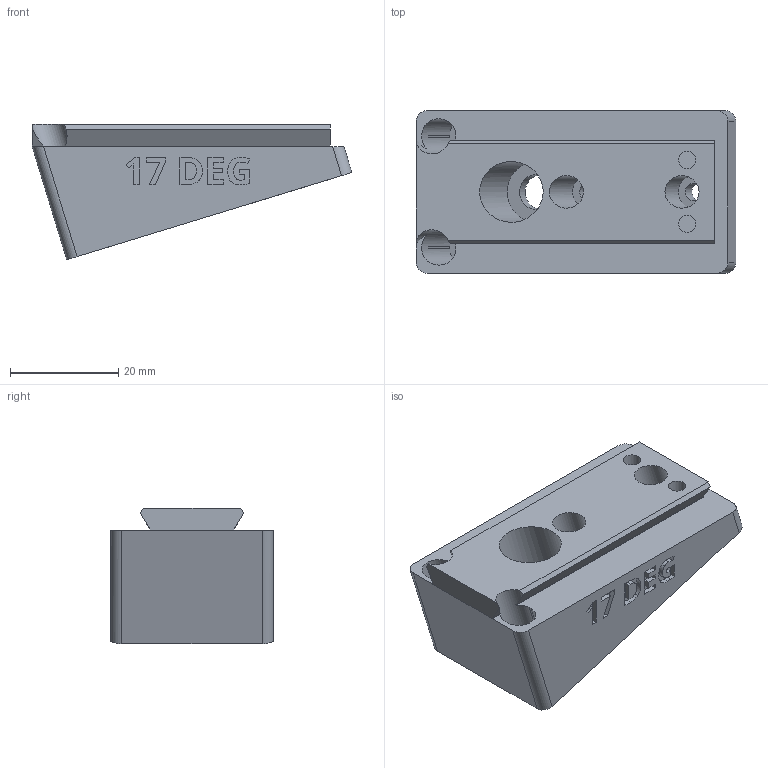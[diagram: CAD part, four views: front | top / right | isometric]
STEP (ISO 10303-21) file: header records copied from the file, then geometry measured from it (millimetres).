
FILE_DESCRIPTION(/* description */ ('STEP AP242 Edition 2','CAx-IF Rec.Pracs.---Representation and Presentation of Product Manufacturing Information (PMI)---4.0---2014-10-13','CAx-IF Rec.Pracs.---3D Tessellated Geometry---0.4---2014-09-14','2;1','CAx-IF Rec.Pracs.---User Defined Attributes---1.5---2016-08-15'),/* implementation_level */ '2;1');
FILE_NAME(/* name */ 'Camera Wedges - CAMERA MOUNTING WEDGE, POS, 17 DEG',/* time_stamp */ '2026-07-08T20:38:02Z',/* author */ (''),/* organization */ (''),/* preprocessor_version */ 'ST-DEVELOPER v20',/* originating_system */ 'ONSHAPE BY PTC INC, 1.217',/* authorisation */ ' ');
FILE_SCHEMA (('AP242_MANAGED_MODEL_BASED_3D_ENGINEERING_MIM_LF { 1 0 10303 442 3 1 4 }'));
Length unit declared in the file: metre
Products named in the file (1): CAMERA MOUNTING WEDGE, POS, 17 DEG
Bounding box: 58.97 x 30 x 24.96 mm (x, y, z)
Volume: 21471.3 mm3; surface area: 8534.2 mm2
Topology: 1 solids, 1 shells, 209 faces, 568 edges, 379 vertices
Faces by surface type: plane 143, cylinder 36, bspline 30
Full cylindrical faces by diameter (mm): 3.2 x4, 6 x2, 6.4 x1, 11.2 x1
Entity records: 6631 total; most frequent: CARTESIAN_POINT 1473, ORIENTED_EDGE 1114, DIRECTION 943, EDGE_CURVE 557, LINE 411, VECTOR 411, VERTEX_POINT 376, AXIS2_PLACEMENT_3D 266
